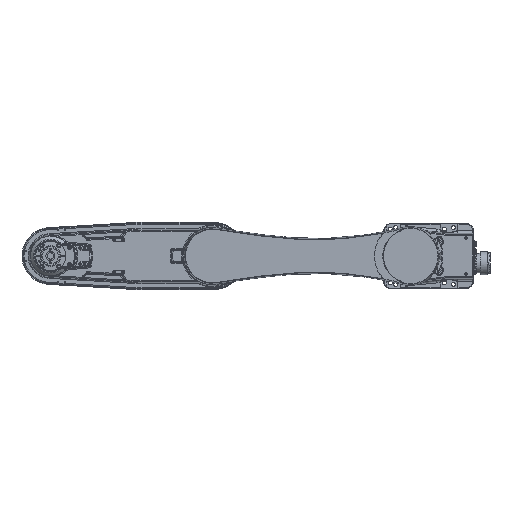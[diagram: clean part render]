
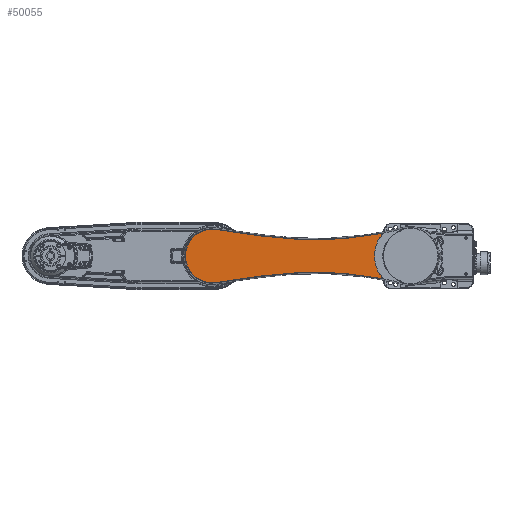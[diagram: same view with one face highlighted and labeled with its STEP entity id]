
A CAD part, front view. The second image highlights one B-rep face of the part: STEP entity #50055.
In plain terms, the highlighted planar face has unit normal (0, -1, 0).
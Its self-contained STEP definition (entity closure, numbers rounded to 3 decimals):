
#47512=DIRECTION('',(0.99,0.,-0.144));
#47513=VECTOR('',#47512,126.575);
#47514=CARTESIAN_POINT('',(-539.323,-321.,73.562));
#47515=LINE('',#47514,#47513);
#47516=CARTESIAN_POINT('',(-266.454,-321.,1072.363));
#47517=DIRECTION('',(0.,-1.,0.));
#47518=DIRECTION('',(-0.144,0.,-0.99));
#47519=AXIS2_PLACEMENT_3D('',#47516,#47517,#47518);
#47521=CARTESIAN_POINT('',(0.,-321.,
0.));
#47522=DIRECTION('',(0.,-1.,0.));
#47523=DIRECTION('',(-0.769,0.,0.639));
#47524=AXIS2_PLACEMENT_3D('',#47521,#47522,#47523);
#47526=DIRECTION('',(-0.962,0.,-0.272));
#47527=VECTOR('',#47526,1.465);
#47528=CARTESIAN_POINT('',(-83.549,-321.,51.221));
#47529=LINE('',#47528,#47527);
#47530=CARTESIAN_POINT('',(0.,-321.,0.));
#47531=DIRECTION('',(0.,-1.,0.));
#47532=DIRECTION('',(-0.858,0.,0.513));
#47533=AXIS2_PLACEMENT_3D('',#47530,#47531,#47532);
#47535=CARTESIAN_POINT('',(0.,-321.,0.));
#47536=DIRECTION('',(0.,-1.,0.));
#47537=DIRECTION('',(-1.,0.,0.));
#47538=AXIS2_PLACEMENT_3D('',#47535,#47536,#47537);
#47540=DIRECTION('',(0.962,0.,-0.272));
#47541=VECTOR('',#47540,1.465);
#47542=CARTESIAN_POINT('',(-84.959,-321.,-50.823));
#47543=LINE('',#47542,#47541);
#47544=CARTESIAN_POINT('',(0.,-321.,
0.));
#47545=DIRECTION('',(0.,-1.,0.));
#47546=DIRECTION('',(-0.853,0.,-0.523));
#47547=AXIS2_PLACEMENT_3D('',#47544,#47545,#47546);
#47549=CARTESIAN_POINT('',(-266.454,-321.,-1072.363));
#47550=DIRECTION('',(0.,-1.,0.));
#47551=DIRECTION('',(0.186,0.,0.983));
#47552=AXIS2_PLACEMENT_3D('',#47549,#47550,#47551);
#47554=DIRECTION('',(-0.99,0.,-0.144));
#47555=VECTOR('',#47554,126.575);
#47556=CARTESIAN_POINT('',(-414.06,-321.,-55.381));
#47557=LINE('',#47556,#47555);
#47558=CARTESIAN_POINT('',(-550.,-321.,0.));
#47559=DIRECTION('',(0.,1.,0.));
#47560=DIRECTION('',(0.144,0.,-0.99));
#47561=AXIS2_PLACEMENT_3D('',#47558,#47559,#47560);
#49621=CARTESIAN_POINT('',(-539.323,-321.,73.562));
#49622=CARTESIAN_POINT('',(-414.06,-321.,55.381));
#49623=VERTEX_POINT('',#49621);
#49624=VERTEX_POINT('',#49622);
#49625=CARTESIAN_POINT('',(-75.36,-321.,62.649));
#49626=VERTEX_POINT('',#49625);
#49627=CARTESIAN_POINT('',(-83.549,-321.,
51.221));
#49628=VERTEX_POINT('',#49627);
#49629=CARTESIAN_POINT('',(-84.959,-321.,50.823));
#49630=VERTEX_POINT('',#49629);
#49631=CARTESIAN_POINT('',(-99.,-321.,0.));
#49632=VERTEX_POINT('',#49631);
#49633=CARTESIAN_POINT('',(-84.959,-321.,-50.823));
#49634=VERTEX_POINT('',#49633);
#49635=CARTESIAN_POINT('',(-83.549,-321.,
-51.221));
#49636=VERTEX_POINT('',#49635);
#49637=CARTESIAN_POINT('',(-75.36,-321.,
-62.649));
#49638=VERTEX_POINT('',#49637);
#49639=CARTESIAN_POINT('',(-414.06,-321.,-55.381));
#49640=VERTEX_POINT('',#49639);
#49641=CARTESIAN_POINT('',(-539.323,-321.,-73.562));
#49642=VERTEX_POINT('',#49641);
#50026=CARTESIAN_POINT('',(-349.888,-321.,0.));
#50027=DIRECTION('',(0.,1.,0.));
#50028=DIRECTION('',(1.,0.,0.));
#50029=AXIS2_PLACEMENT_3D('',#50026,#50027,#50028);
#50030=PLANE('',#50029);
#50032=ORIENTED_EDGE('',*,*,#50031,.T.);
#50034=ORIENTED_EDGE('',*,*,#50033,.T.);
#50036=ORIENTED_EDGE('',*,*,#50035,.T.);
#50038=ORIENTED_EDGE('',*,*,#50037,.T.);
#50040=ORIENTED_EDGE('',*,*,#50039,.T.);
#50042=ORIENTED_EDGE('',*,*,#50041,.T.);
#50044=ORIENTED_EDGE('',*,*,#50043,.T.);
#50046=ORIENTED_EDGE('',*,*,#50045,.T.);
#50048=ORIENTED_EDGE('',*,*,#50047,.T.);
#50050=ORIENTED_EDGE('',*,*,#50049,.T.);
#50052=ORIENTED_EDGE('',*,*,#50051,.T.);
#50053=EDGE_LOOP('',(#50032,#50034,#50036,#50038,#50040,#50042,#50044,#50046,
#50048,#50050,#50052));
#50054=FACE_OUTER_BOUND('',#50053,.F.);
#47520=CIRCLE('',#47519,1027.638);
#47525=CIRCLE('',#47524,98.);
#47534=CIRCLE('',#47533,99.);
#47539=CIRCLE('',#47538,99.);
#47548=CIRCLE('',#47547,98.);
#47553=CIRCLE('',#47552,1027.638);
#47562=CIRCLE('',#47561,74.333);
#50031=EDGE_CURVE('',#49623,#49624,#47515,.T.);
#50033=EDGE_CURVE('',#49624,#49626,#47520,.T.);
#50035=EDGE_CURVE('',#49626,#49628,#47525,.T.);
#50037=EDGE_CURVE('',#49628,#49630,#47529,.T.);
#50039=EDGE_CURVE('',#49630,#49632,#47534,.T.);
#50041=EDGE_CURVE('',#49632,#49634,#47539,.T.);
#50043=EDGE_CURVE('',#49634,#49636,#47543,.T.);
#50045=EDGE_CURVE('',#49636,#49638,#47548,.T.);
#50047=EDGE_CURVE('',#49638,#49640,#47553,.T.);
#50049=EDGE_CURVE('',#49640,#49642,#47557,.T.);
#50051=EDGE_CURVE('',#49642,#49623,#47562,.T.);
#50055=ADVANCED_FACE('',(#50054),#50030,.F.);
